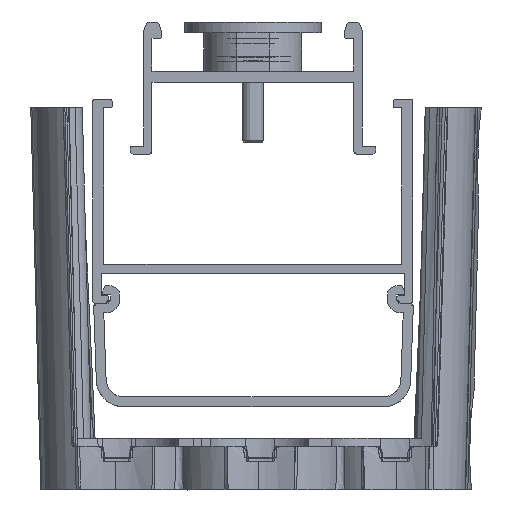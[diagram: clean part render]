
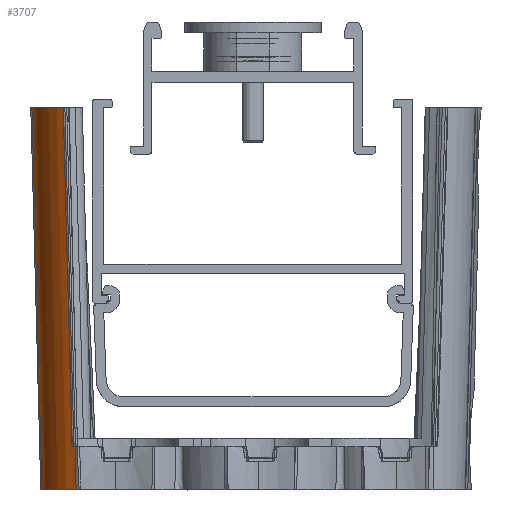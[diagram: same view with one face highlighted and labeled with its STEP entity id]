
A CAD part, front view. The second image highlights one B-rep face of the part: STEP entity #3707.
In plain terms, the highlighted free-form (B-spline) face has degree [2, 1] with [9, 2] control points.
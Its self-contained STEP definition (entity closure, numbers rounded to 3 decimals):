
#2331=B_SPLINE_CURVE_WITH_KNOTS('',3,(#82924,#82925,#82926,#82927,#82928,
#82929,#82930,#82931,#82932,#82933),.UNSPECIFIED.,.F.,.F.,(4,3,3,4),(0.,
1.,2.,3.),.UNSPECIFIED.);
#3707=ADVANCED_FACE('',(#4987),#24227,.T.);
#4987=FACE_OUTER_BOUND('',#6281,.T.);
#6281=EDGE_LOOP('',(#11546,#11547,#11548,#11549));
#11546=ORIENTED_EDGE('',*,*,#17866,.F.);
#11547=ORIENTED_EDGE('',*,*,#18714,.F.);
#11548=ORIENTED_EDGE('',*,*,#17867,.F.);
#11549=ORIENTED_EDGE('',*,*,#17868,.T.);
#17866=EDGE_CURVE('',#22839,#22840,#20545,.T.);
#17867=EDGE_CURVE('',#22842,#22841,#20546,.T.);
#17868=EDGE_CURVE('',#22842,#22840,#20547,.T.);
#18714=EDGE_CURVE('',#22841,#22839,#2331,.T.);
#20545=(
BOUNDED_CURVE()
B_SPLINE_CURVE(2,(#76550,#76551,#76552,#76553,#76554),.UNSPECIFIED.,.F.,
 .F.)
B_SPLINE_CURVE_WITH_KNOTS((3,2,3),(0.,13.942,27.884),
 .UNSPECIFIED.)
CURVE()
GEOMETRIC_REPRESENTATION_ITEM()
RATIONAL_B_SPLINE_CURVE((1.,0.871,1.,0.871,1.))
REPRESENTATION_ITEM('')
);
#20546=(
BOUNDED_CURVE()
B_SPLINE_CURVE(2,(#76555,#76556,#76557,#76558,#76559),.UNSPECIFIED.,.F.,
 .F.)
B_SPLINE_CURVE_WITH_KNOTS((3,2,3),(-28.129,-14.064,
0.),.UNSPECIFIED.)
CURVE()
GEOMETRIC_REPRESENTATION_ITEM()
RATIONAL_B_SPLINE_CURVE((1.,0.897,1.,0.897,1.))
REPRESENTATION_ITEM('')
);
#20547=(
BOUNDED_CURVE()
B_SPLINE_CURVE(3,(#76560,#76561,#76562,#76563),.UNSPECIFIED.,.F.,.F.)
B_SPLINE_CURVE_WITH_KNOTS((4,4),(0.421,70.487),
 .UNSPECIFIED.)
CURVE()
GEOMETRIC_REPRESENTATION_ITEM()
RATIONAL_B_SPLINE_CURVE((1.,1.,1.,1.))
REPRESENTATION_ITEM('')
);
#22839=VERTEX_POINT('',#62864);
#22840=VERTEX_POINT('',#62865);
#22841=VERTEX_POINT('',#62866);
#22842=VERTEX_POINT('',#62867);
#24227=(
BOUNDED_SURFACE()
B_SPLINE_SURFACE(2,1,((#47911,#47912),(#47913,#47914),(#47915,#47916),(#47917,
#47918),(#47919,#47920),(#47921,#47922),(#47923,#47924),(#47925,#47926),
(#47927,#47928)),.UNSPECIFIED.,.T.,.F.,.F.)
B_SPLINE_SURFACE_WITH_KNOTS((3,2,2,2,3),(2,2),(0.,1.571,3.142,
4.712,6.283),(0.,86.43),.UNSPECIFIED.)
GEOMETRIC_REPRESENTATION_ITEM()
RATIONAL_B_SPLINE_SURFACE(((1.,1.),(0.707,0.707),
(1.,1.),(0.707,0.707),(1.,1.),(0.707,
0.707),(1.,1.),(0.707,0.707),(1.,1.)))
REPRESENTATION_ITEM('')
SURFACE()
);
#47911=CARTESIAN_POINT('',(803.869,-1417.28,-50.95));
#47912=CARTESIAN_POINT('',(803.869,-1415.017,35.45));
#47913=CARTESIAN_POINT('',(790.536,-1417.28,-50.95));
#47914=CARTESIAN_POINT('',(788.274,-1415.017,35.45));
#47915=CARTESIAN_POINT('',(790.536,-1430.612,-50.95));
#47916=CARTESIAN_POINT('',(788.274,-1430.612,35.45));
#47917=CARTESIAN_POINT('',(790.536,-1443.945,-50.95));
#47918=CARTESIAN_POINT('',(788.274,-1446.207,35.45));
#47919=CARTESIAN_POINT('',(803.869,-1443.945,-50.95));
#47920=CARTESIAN_POINT('',(803.869,-1446.207,35.45));
#47921=CARTESIAN_POINT('',(817.201,-1443.945,-50.95));
#47922=CARTESIAN_POINT('',(819.464,-1446.207,35.45));
#47923=CARTESIAN_POINT('',(817.201,-1430.612,-50.95));
#47924=CARTESIAN_POINT('',(819.464,-1430.612,35.45));
#47925=CARTESIAN_POINT('',(817.201,-1417.28,-50.95));
#47926=CARTESIAN_POINT('',(819.464,-1415.017,35.45));
#47927=CARTESIAN_POINT('',(803.869,-1417.28,-50.95));
#47928=CARTESIAN_POINT('',(803.869,-1415.017,35.45));
#62864=CARTESIAN_POINT('',(796.595,-1442.041,-42.75));
#62865=CARTESIAN_POINT('',(797.178,-1418.832,-42.75));
#62866=CARTESIAN_POINT('',(794.814,-1443.044,27.25));
#62867=CARTESIAN_POINT('',(794.159,-1418.685,27.25));
#76550=CARTESIAN_POINT('',(796.595,-1442.041,-42.75));
#76551=CARTESIAN_POINT('',(790.133,-1437.929,-42.75));
#76552=CARTESIAN_POINT('',(790.326,-1430.272,-42.75));
#76553=CARTESIAN_POINT('',(790.519,-1422.615,-42.75));
#76554=CARTESIAN_POINT('',(797.178,-1418.832,-42.75));
#76555=CARTESIAN_POINT('',(794.159,-1418.685,27.25));
#76556=CARTESIAN_POINT('',(788.291,-1423.461,27.25));
#76557=CARTESIAN_POINT('',(788.494,-1431.025,27.25));
#76558=CARTESIAN_POINT('',(788.697,-1438.589,27.25));
#76559=CARTESIAN_POINT('',(794.814,-1443.044,27.25));
#76560=CARTESIAN_POINT('',(794.159,-1418.685,27.25));
#76561=CARTESIAN_POINT('',(795.075,-1418.727,3.912));
#76562=CARTESIAN_POINT('',(796.044,-1418.774,-19.424));
#76563=CARTESIAN_POINT('',(797.178,-1418.832,-42.75));
#82924=CARTESIAN_POINT('',(794.814,-1443.044,27.25));
#82925=CARTESIAN_POINT('',(794.829,-1443.036,26.672));
#82926=CARTESIAN_POINT('',(794.843,-1443.028,26.094));
#82927=CARTESIAN_POINT('',(794.858,-1443.02,25.516));
#82928=CARTESIAN_POINT('',(794.859,-1443.02,25.496));
#82929=CARTESIAN_POINT('',(794.859,-1443.019,25.475));
#82930=CARTESIAN_POINT('',(794.859,-1443.019,25.455));
#82931=CARTESIAN_POINT('',(795.438,-1442.693,2.72));
#82932=CARTESIAN_POINT('',(796.016,-1442.367,-20.015));
#82933=CARTESIAN_POINT('',(796.595,-1442.041,-42.75));
